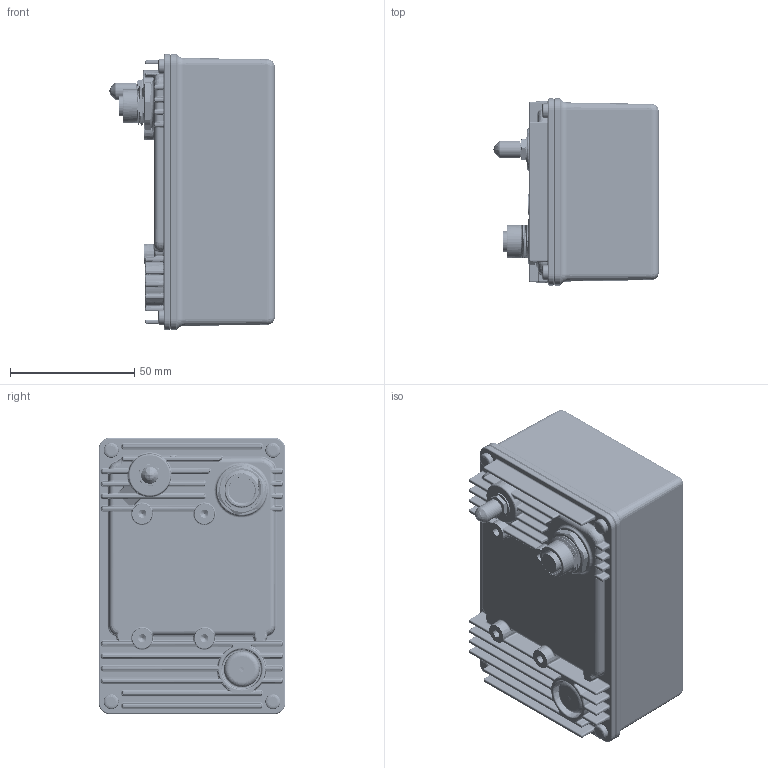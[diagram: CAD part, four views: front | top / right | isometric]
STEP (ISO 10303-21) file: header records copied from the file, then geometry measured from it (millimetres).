
FILE_DESCRIPTION(/* description */ (''),/* implementation_level */ '2;1');
FILE_NAME(/* name */ '10000443_Standard_A.stp',/* time_stamp */ '2023-03-09T09:43:44+01:00',/* author */ ('Menz'),/* organization */ (''),/* preprocessor_version */ 'ST-DEVELOPER v19.2',/* originating_system */ 'Autodesk Inventor 2023',/* authorisation */ '');
FILE_SCHEMA (('AUTOMOTIVE_DESIGN { 1 0 10303 214 3 1 1 }'));
Products named in the file (1): 10000443_simplified
Bounding box: 66.52 x 75 x 111 mm (x, y, z)
Volume: 368935.8 mm3; surface area: 72284.9 mm2
Topology: 11 solids, 11 shells, 2052 faces, 5310 edges, 3194 vertices
Faces by surface type: cylinder 745, bspline 490, plane 332, torus 210, cone 176, sphere 99
Full cylindrical faces by diameter (mm): 0.9 x1, 3 x28, 3.242 x4, 4.7 x1, 5.3 x1, 6 x4, 6.5 x2, 6.9 x1, 7.3 x1, 8.25 x1, 9.8 x1, 10.2 x1, 10.517 x5, 10.9 x1, 12.113 x1, 13 x1, 13.5 x1, 14.4 x1, 20 x1
Entity records: 122494 total; most frequent: CARTESIAN_POINT 73444, ORIENTED_EDGE 10396, DIRECTION 9219, EDGE_CURVE 5198, AXIS2_PLACEMENT_3D 3853, VERTEX_POINT 3194, CIRCLE 2199, EDGE_LOOP 2120
